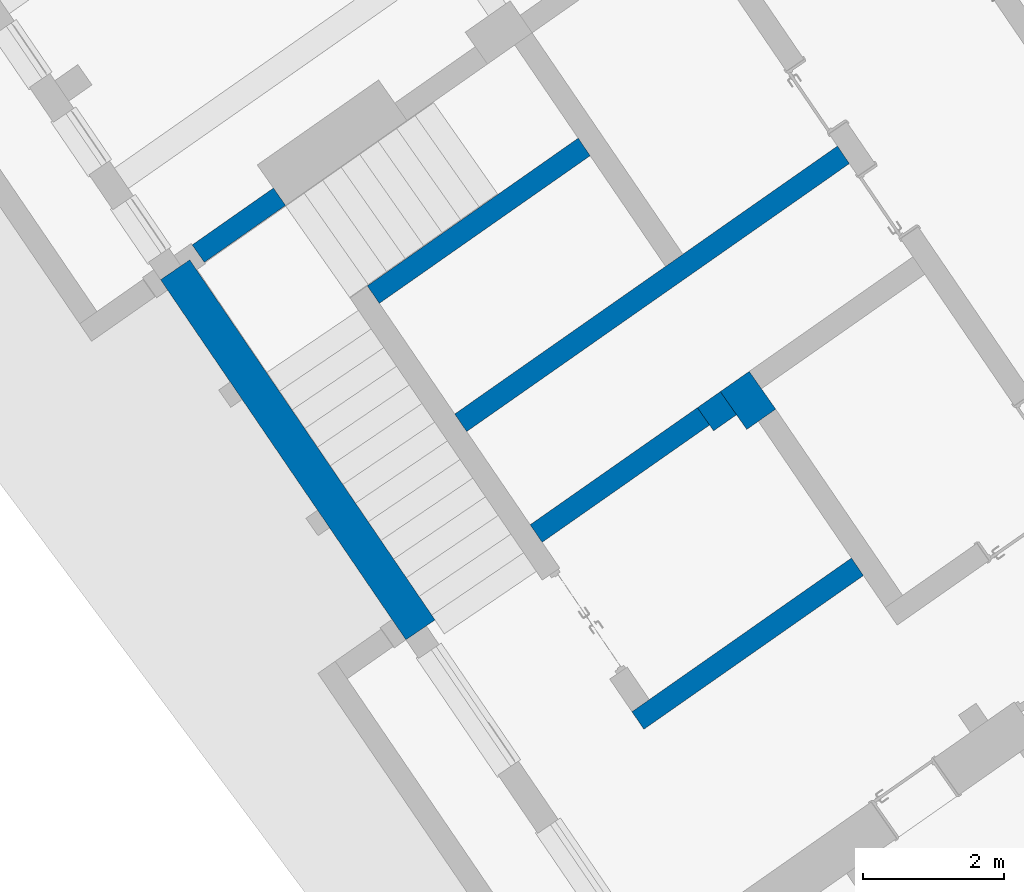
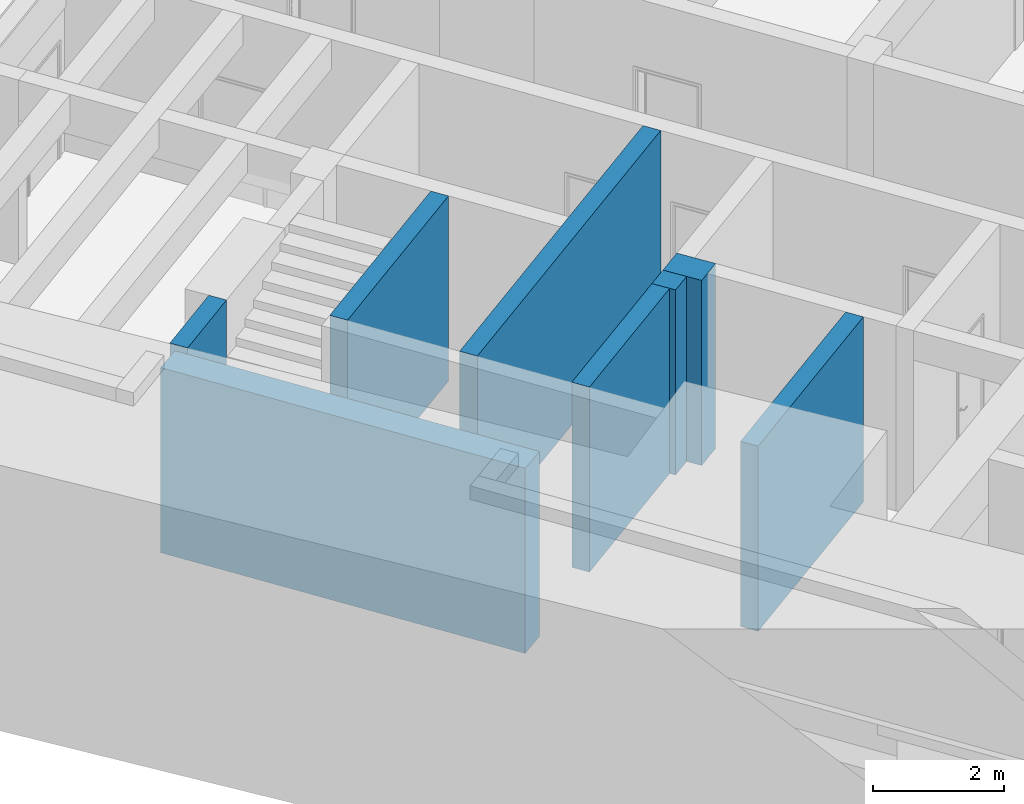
# One storey, part 30 of 112: 8 walls.
"""IFC2X3 building model written with IfcOpenShell, lengths in millimetres."""

from ifc_helpers import new_model, entity, si_unit, converted_unit, derived_unit, direction, frame, frame_2d, origin, place, context, subcontext, project, spatial, polyline, rectangle, outline, extrude, material, layer, layer_set, layer_usage, type_object, element, save


model = new_model("IFC2X3")

# Units and contexts
model_context = context("Model", 3, precision=0.01, world=origin(), true_north=direction((6.123031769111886e-17, 1.0)))
body_context = subcontext(model_context, "Body", "Model", "MODEL_VIEW")
ifc_project = project(units=[si_unit("LENGTHUNIT", "METRE", prefix="MILLI"), si_unit("AREAUNIT", "SQUARE_METRE"), si_unit("VOLUMEUNIT", "CUBIC_METRE"), converted_unit("PLANEANGLEUNIT", "DEGREE", entity("IfcRatioMeasure", 0.017453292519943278), si_unit("PLANEANGLEUNIT", "RADIAN"), dimensions=[0, 0, 0, 0, 0, 0, 0]), si_unit("MASSUNIT", "GRAM", prefix="KILO"), derived_unit("MASSDENSITYUNIT", [(si_unit("MASSUNIT", "GRAM", prefix="KILO"), 1), (si_unit("LENGTHUNIT", "METRE"), -3)]), derived_unit("MOMENTOFINERTIAUNIT", [(si_unit("LENGTHUNIT", "METRE"), 4)]), si_unit("TIMEUNIT", "SECOND"), si_unit("FREQUENCYUNIT", "HERTZ"), si_unit("THERMODYNAMICTEMPERATUREUNIT", "DEGREE_CELSIUS"), derived_unit("THERMALTRANSMITTANCEUNIT", [(si_unit("MASSUNIT", "GRAM", prefix="KILO"), 1), (si_unit("THERMODYNAMICTEMPERATUREUNIT", "KELVIN"), -1), (si_unit("TIMEUNIT", "SECOND"), -3)]), derived_unit("THERMALCONDUCTANCEUNIT", [(si_unit("MASSUNIT", "GRAM", prefix="KILO"), 1), (si_unit("LENGTHUNIT", "METRE"), 1), (si_unit("THERMODYNAMICTEMPERATUREUNIT", "KELVIN"), -1), (si_unit("TIMEUNIT", "SECOND"), -3)]), derived_unit("VOLUMETRICFLOWRATEUNIT", [(si_unit("LENGTHUNIT", "METRE"), 3), (si_unit("TIMEUNIT", "SECOND"), -1)]), derived_unit("MASSFLOWRATEUNIT", [(si_unit("MASSUNIT", "GRAM", prefix="KILO"), 1), (si_unit("TIMEUNIT", "SECOND"), -1)]), derived_unit("ROTATIONALFREQUENCYUNIT", [(si_unit("TIMEUNIT", "SECOND"), -1)]), si_unit("ELECTRICCURRENTUNIT", "AMPERE"), si_unit("ELECTRICVOLTAGEUNIT", "VOLT"), si_unit("POWERUNIT", "WATT"), converted_unit("FORCEUNIT", "KIP", entity("IfcRatioMeasure", 2.088543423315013e-05), si_unit("FORCEUNIT", "NEWTON"), dimensions=[1, 1, -2, 0, 0, 0, 0]), si_unit("ILLUMINANCEUNIT", "LUX"), si_unit("LUMINOUSFLUXUNIT", "LUMEN"), si_unit("LUMINOUSINTENSITYUNIT", "CANDELA"), derived_unit("USERDEFINED", [(si_unit("MASSUNIT", "GRAM", prefix="KILO"), -1), (si_unit("LENGTHUNIT", "METRE"), -2), (si_unit("TIMEUNIT", "SECOND"), 3), (si_unit("LUMINOUSFLUXUNIT", "LUMEN"), 1)]), derived_unit("USERDEFINED", [(si_unit("MASSUNIT", "GRAM", prefix="KILO"), 1), (si_unit("LENGTHUNIT", "METRE"), 3), (si_unit("TIMEUNIT", "SECOND"), -3), (si_unit("ELECTRICCURRENTUNIT", "AMPERE"), -2)]), derived_unit("USERDEFINED", [(si_unit("LENGTHUNIT", "METRE"), 2), (si_unit("TIMEUNIT", "SECOND"), -2)]), derived_unit("SOUNDPOWERUNIT", [(si_unit("MASSUNIT", "GRAM", prefix="KILO"), 1), (si_unit("LENGTHUNIT", "METRE"), 2), (si_unit("TIMEUNIT", "SECOND"), -3)]), derived_unit("SOUNDPRESSUREUNIT", [(si_unit("MASSUNIT", "GRAM", prefix="KILO"), 1), (si_unit("LENGTHUNIT", "METRE"), -1), (si_unit("TIMEUNIT", "SECOND"), -2)]), derived_unit("LINEARVELOCITYUNIT", [(si_unit("LENGTHUNIT", "METRE"), 1), (si_unit("TIMEUNIT", "SECOND"), -1)]), si_unit("PRESSUREUNIT", "PASCAL"), derived_unit("USERDEFINED", [(si_unit("LENGTHUNIT", "METRE"), -2), (si_unit("MASSUNIT", "GRAM", prefix="KILO"), 1), (si_unit("TIMEUNIT", "SECOND"), -2)]), derived_unit("LINEARFORCEUNIT", [(si_unit("MASSUNIT", "GRAM", prefix="KILO"), 1), (si_unit("LENGTHUNIT", "METRE"), 1), (si_unit("TIMEUNIT", "SECOND"), -2), (si_unit("LENGTHUNIT", "METRE"), -1)]), derived_unit("PLANARFORCEUNIT", [(si_unit("MASSUNIT", "GRAM", prefix="KILO"), 1), (si_unit("LENGTHUNIT", "METRE"), 1), (si_unit("TIMEUNIT", "SECOND"), -2), (si_unit("LENGTHUNIT", "METRE"), -2)]), derived_unit("SPECIFICHEATCAPACITYUNIT", [(si_unit("LENGTHUNIT", "METRE"), 2), (si_unit("TIMEUNIT", "SECOND"), -2), (si_unit("THERMODYNAMICTEMPERATUREUNIT", "KELVIN"), -1)]), derived_unit("VAPORPERMEABILITYUNIT", [(si_unit("TIMEUNIT", "SECOND"), 1), (si_unit("LENGTHUNIT", "METRE"), -1)]), derived_unit("DYNAMICVISCOSITYUNIT", [(si_unit("MASSUNIT", "GRAM", prefix="KILO"), 1), (si_unit("LENGTHUNIT", "METRE"), -1), (si_unit("TIMEUNIT", "SECOND"), -1)]), derived_unit("THERMALEXPANSIONCOEFFICIENTUNIT", [(si_unit("THERMODYNAMICTEMPERATUREUNIT", "KELVIN"), -1)])], contexts=[model_context])

# Site, building, storey
site_placement = place(None, frame((0.0, 0.0, 0.0), z_axis=(0.0, 0.0, 1.0), x_axis=(0.8191520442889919, 0.5735764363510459, 0.0)))
site = spatial("IfcSite", under=ifc_project, at=site_placement, Name="Default", CompositionType="ELEMENT")
building_placement = place(site_placement, origin())
building = spatial("IfcBuilding", under=site, at=building_placement, CompositionType="ELEMENT")
storey_placement = place(building_placement, frame((0.0, 0.0, -3600.0)))
storey = spatial("IfcBuildingStorey", under=building, at=storey_placement, Name="0.UG -3.60", CompositionType="ELEMENT", Elevation=-3600.0000000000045)

# Walls
ifc_material = material(Name="Analytical Wall Surface_CJC")
ifc_layer_1 = layer(ifc_material, 300.0)
ifc_layer_set_1 = layer_set([ifc_layer_1], Name="Basic Wall:Wand_Innen_30")
ifc_layer_usage_1 = layer_usage(ifc_layer_set_1, "AXIS2", "POSITIVE", -150.0)
wall_type_1 = type_object("IfcWallType", Name="Basic Wall:Wand_Innen_30", PredefinedType="STANDARD", material=ifc_layer_set_1)
wall_1_placement = place(storey_placement, frame((-217335.46594012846, 106696.35891435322, 0.0), z_axis=(0.0, 0.0, 1.0), x_axis=(-1.0, 0.0, 0.0)))
element("IfcWallStandardCase", 1, at=wall_1_placement, inside=storey, type_object=wall_type_1, material=ifc_layer_usage_1, Name="Basic Wall:Wand_Innen_30", ObjectType="Basic Wall:Wand_Innen_30", context=body_context, shape_type="SweptSolid", body=[
    extrude(outline(polyline([(3800.320072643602, -150.0), (3804.1392583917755, 150.0), (3.8191857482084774, 150.0), (0.0, -150.0), (3500.2957633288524, -150.0), (3800.320072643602, -150.0)])), origin(), (0.0, 0.0, 1.0), 3450.0),
])
wall_2_placement = place(storey_placement, frame((-220749.19349316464, 113796.3589143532, 0.0)))
element("IfcWallStandardCase", 2, at=wall_2_placement, inside=storey, type_object=wall_type_1, material=ifc_layer_usage_1, Name="Basic Wall:Wand_Innen_30", ObjectType="Basic Wall:Wand_Innen_30", context=body_context, shape_type="SweptSolid", body=[
    extrude(outline(polyline([(3650.2957633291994, -150.0), (3654.1149490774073, 150.0), (3.819185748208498, 150.0), (0.0, -150.0), (3650.2957633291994, -150.0)])), origin(), (0.0, 0.0, 1.0), 3450.0),
])
wall_3_placement = place(storey_placement, frame((-220777.20085531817, 111596.35891435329, 0.0)))
element("IfcWallStandardCase", 3, at=wall_3_placement, inside=storey, type_object=wall_type_1, material=ifc_layer_usage_1, Name="Basic Wall:Wand_Innen_30", ObjectType="Basic Wall:Wand_Innen_30", context=body_context, shape_type="SweptSolid", body=[
    extrude(outline(polyline([(6625.549120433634, -150.0), (6629.368306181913, 150.0), (3954.1392583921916, 150.0), (3654.114949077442, 150.0), (3.8191857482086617, 150.0), (0.0, -150.0), (6625.549120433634, -150.0)])), origin(), (0.0, 0.0, 1.0), 3450.0),
])
wall_4_placement = place(storey_placement, frame((-221041.1080637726, 115696.35891435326, 0.0), z_axis=(0.0, 0.0, 1.0), x_axis=(-1.0, 0.0, 0.0)))
element("IfcWallStandardCase", 4, at=wall_4_placement, inside=storey, type_object=wall_type_1, material=ifc_layer_usage_1, Name="Basic Wall:Wand_Innen_30", ObjectType="Basic Wall:Wand_Innen_30", context=body_context, shape_type="SweptSolid", body=[
    extrude(rectangle(XDim=1407.1274386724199, YDim=300.00000000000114, at=frame_2d((703.5637193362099, 7.815970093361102e-13), x_axis=(-1.0, 0.0))), origin(), (0.0, 0.0, 1.0), 3450.0),
])
wall_5_placement = place(storey_placement, frame((-217902.41494894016, 109696.35891435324, 0.0), z_axis=(0.0, 0.0, 1.0), x_axis=(-1.0, 0.0, 0.0)))
element("IfcWallStandardCase", 5, at=wall_5_placement, inside=storey, type_object=wall_type_1, material=ifc_layer_usage_1, Name="Basic Wall:Wand_Innen_30", ObjectType="Basic Wall:Wand_Innen_30", context=body_context, shape_type="SweptSolid", body=[
    extrude(outline(polyline([(2895.1548970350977, -150.0), (2898.9740827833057, 150.0), (0.0, 150.0), (0.0, -150.0), (2895.1548970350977, -150.0)])), origin(), (0.0, 0.0, 1.0), 3450.0),
])
ifc_layer_2 = layer(ifc_material, 400.0)
ifc_layer_set_2 = layer_set([ifc_layer_2], Name="Basic Wall:Wand_Innen_40")
ifc_layer_usage_2 = layer_usage(ifc_layer_set_2, "AXIS2", "NEGATIVE", 200.0)
wall_type_2 = type_object("IfcWallType", Name="Basic Wall:Wand_Innen_40", PredefinedType="STANDARD", material=ifc_layer_set_2)
wall_6_placement = place(storey_placement, frame((-217902.41494894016, 109646.35891435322, 0.0)))
element("IfcWallStandardCase", 6, at=wall_6_placement, inside=storey, type_object=wall_type_2, material=ifc_layer_usage_2, Name="Basic Wall:Wand_Innen_40", ObjectType="Basic Wall:Wand_Innen_40", context=body_context, shape_type="SweptSolid", body=[
    extrude(rectangle(XDim=396.84165649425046, YDim=400.0000000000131, at=frame_2d((198.42082824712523, 2.2737367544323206e-13), x_axis=(-1.0, 0.0))), origin(), (0.0, 0.0, 1.0), 3450.0),
])
ifc_layer_3 = layer(ifc_material, 500.00000000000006)
ifc_layer_set_3 = layer_set([ifc_layer_3], Name="Basic Wall:Wand_Innen_50")
ifc_layer_usage_3 = layer_usage(ifc_layer_set_3, "AXIS2", "POSITIVE", -250.00000000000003)
wall_type_3 = type_object("IfcWallType", Name="Basic Wall:Wand_Innen_50", PredefinedType="STANDARD", material=ifc_layer_set_3)
wall_7_placement = place(storey_placement, frame((-217255.5732924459, 109192.54003805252, 0.0), z_axis=(0.0, 0.0, 1.0), x_axis=(0.0, 1.0, 0.0)))
element("IfcWallStandardCase", 7, at=wall_7_placement, inside=storey, type_object=wall_type_3, material=ifc_layer_usage_3, Name="Basic Wall:Wand_Innen_50", ObjectType="Basic Wall:Wand_Innen_50", context=body_context, shape_type="SweptSolid", body=[
    extrude(rectangle(XDim=653.8188763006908, YDim=500.00000000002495, at=frame_2d((326.9094381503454, 3.552713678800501e-13), x_axis=(-1.0, 0.0))), origin(), (0.0, 0.0, 1.0), 3450.000000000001),
])
ifc_layer_4 = layer(ifc_material, 500.00000000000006)
ifc_layer_set_4 = layer_set([ifc_layer_4], Name="Basic Wall:Wand_Aussen_50")
ifc_layer_usage_4 = layer_usage(ifc_layer_set_4, "AXIS2", "NEGATIVE", 250.00000000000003)
wall_type_4 = type_object("IfcWallType", Name="Basic Wall:Wand_Aussen_50", PredefinedType="STANDARD", material=ifc_layer_set_4)
wall_8_placement = place(storey_placement, frame((-222926.85854892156, 109518.17573502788, 0.0), z_axis=(0.0, 0.0, 1.0), x_axis=(0.01272958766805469, 0.9999189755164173, 0.0)))
element("IfcWallStandardCase", 8, at=wall_8_placement, inside=storey, type_object=wall_type_4, material=ifc_layer_usage_4, Name="Basic Wall:Wand_Aussen_50", ObjectType="Basic Wall:Wand_Aussen_50", context=body_context, shape_type="SweptSolid", body=[
    extrude(rectangle(XDim=6178.683804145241, YDim=500.0000000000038, at=frame_2d((3089.3419020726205, 1.0800249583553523e-12), x_axis=(-1.0, 0.0))), origin(), (0.0, 0.0, 1.0), 3450.000000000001),
])

save(model, "model.ifc")
